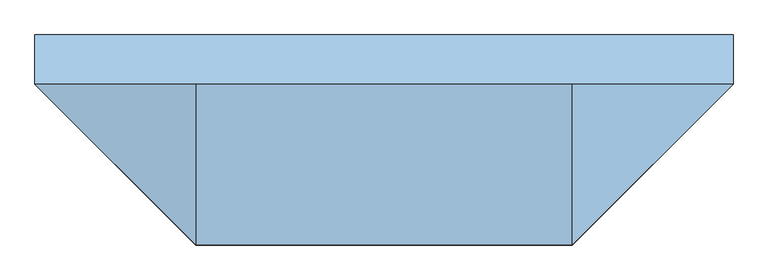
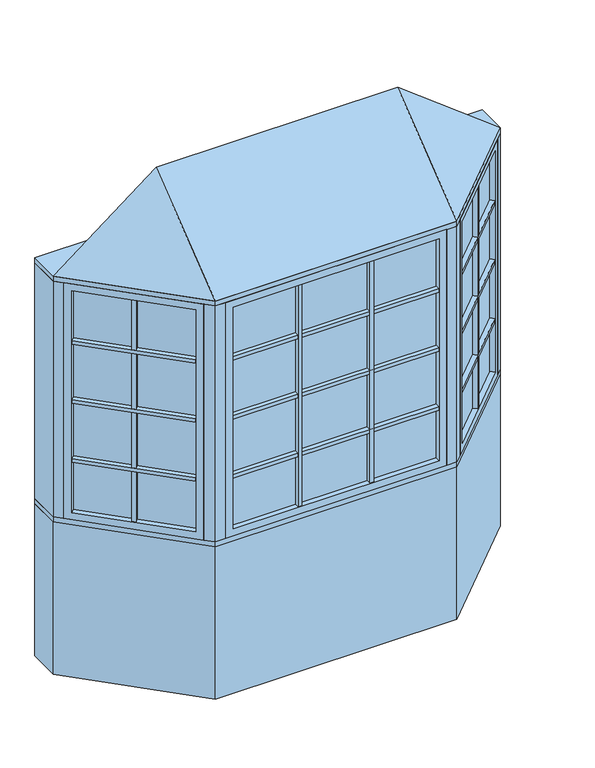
"""IFC4 building model written with IfcOpenShell, lengths in millimetres: window geometry, Pollard_Windows_Tudor Casement Bows and Bays : AML-BAY 45 AFR0612-10-600_GC."""

import ifcopenshell
import ifcopenshell.guid

model = None  # the IFC model being written
_history = None  # IfcOwnerHistory: only IFC2X3 demands one
_inside = {}  # id of a spatial element -> (the spatial element, [elements in it])
_under = {}  # id of a project, library or spatial element -> (it, [spatial elements below it])
_declared = {}  # id of a project -> (the project, [libraries it declares])
_typed = {}  # id of a type object -> (the type object, [elements of that type])
_made_of = {}  # id of a material, layer set ... -> (it, [elements and type objects made of it])


def new_model(schema):
    """Start an empty IFC model of exactly this schema.

    Asked for "IFC4X3", IfcOpenShell would pick the latest addendum, in which some entities
    have other attributes; the version numbers below select the first issue.
    IFC2X3 requires an IfcOwnerHistory on every rooted entity: one is made here for all.
    """
    global model, _history
    if schema == "IFC4X3":
        model = ifcopenshell.file(schema_version=(4, 3, 0, 0))
    else:
        model = ifcopenshell.file(schema=schema)
    _inside.clear()
    _under.clear()
    _declared.clear()
    _typed.clear()
    _made_of.clear()
    _history = None
    if model.schema == "IFC2X3":
        org = make("IfcOrganization", Name="unknown")
        user = make(
            "IfcPersonAndOrganization",
            ThePerson=make("IfcPerson", FamilyName="unknown"),
            TheOrganization=org,
        )
        app = make(
            "IfcApplication",
            ApplicationDeveloper=org,
            Version="unknown",
            ApplicationFullName="unknown",
            ApplicationIdentifier="unknown",
        )
        _history = make(
            "IfcOwnerHistory",
            OwningUser=user,
            OwningApplication=app,
            ChangeAction="ADDED",
            CreationDate=0,
        )
    return model


def make(cls, **values):
    """One entity of the class cls with the attributes given. An attribute that is None is left unset."""
    return model.create_entity(
        cls, **{name: value for name, value in values.items() if value is not None}
    )


def rooted(cls, **values):
    """An entity with a GlobalId (a new one), such as an element, a storey or a relation."""
    return make(cls, GlobalId=ifcopenshell.guid.new(), OwnerHistory=_history, **values)


def si_unit(unit_type, name, prefix=None):
    """IfcSIUnit, for example si_unit("LENGTHUNIT", "METRE", prefix="MILLI")."""
    return make("IfcSIUnit", UnitType=unit_type, Prefix=prefix, Name=name)


def assignment(units):
    """IfcUnitAssignment: the units of a project."""
    return None if units is None else make("IfcUnitAssignment", Units=units)


def point(xyz):
    """IfcCartesianPoint."""
    return None if xyz is None else make("IfcCartesianPoint", Coordinates=xyz)


def direction(xyz):
    """IfcDirection."""
    return None if xyz is None else make("IfcDirection", DirectionRatios=xyz)


def frame(location, z_axis=None, x_axis=None):
    """IfcAxis2Placement3D, a coordinate frame: its origin and axes. An axis left out is left unset."""
    return make(
        "IfcAxis2Placement3D",
        Location=point(location),
        Axis=direction(z_axis),
        RefDirection=direction(x_axis),
    )


def origin():
    """The frame at (0, 0, 0) with its axes left unset."""
    return frame((0.0, 0.0, 0.0))


def origin_with_axes():
    """The frame at (0, 0, 0) with the z axis (0, 0, 1) and the x axis (1, 0, 0) written out."""
    return frame((0.0, 0.0, 0.0), z_axis=(0.0, 0.0, 1.0), x_axis=(1.0, 0.0, 0.0))


def place(relative_to, where):
    """IfcLocalPlacement: puts the frame where relative to a parent placement (None: the world)."""
    return make(
        "IfcLocalPlacement", PlacementRelTo=relative_to, RelativePlacement=where
    )


def context(
    kind, dimensions, precision=None, world=None, true_north=None, identifier=None
):
    """IfcGeometricRepresentationContext, for example the 3D "Model" context."""
    return make(
        "IfcGeometricRepresentationContext",
        ContextIdentifier=identifier,
        ContextType=kind,
        CoordinateSpaceDimension=dimensions,
        Precision=precision,
        WorldCoordinateSystem=world,
        TrueNorth=true_north,
    )


def project(units=None, contexts=None):
    """IfcProject with its units and contexts."""
    return rooted(
        "IfcProject",
        Name="project",
        RepresentationContexts=contexts,
        UnitsInContext=assignment(units),
    )


def spatial(cls, under=None, at=None, **own):
    """A site, building, storey or space (cls), placed at a placement, below another one or the project."""
    s = rooted(cls, ObjectPlacement=at, **own)
    if under is not None:
        _under.setdefault(under.id(), (under, []))[1].append(s)
    return s


def polyline(points):
    """IfcPolyline through the points."""
    return make("IfcPolyline", Points=[point(p) for p in points])


def outline(outer, holes=None, kind="AREA"):
    """IfcArbitraryClosedProfileDef: a profile drawn as a closed curve; with holes, ...WithVoids."""
    if holes is None:
        return make("IfcArbitraryClosedProfileDef", ProfileType=kind, OuterCurve=outer)
    return make(
        "IfcArbitraryProfileDefWithVoids",
        ProfileType=kind,
        OuterCurve=outer,
        InnerCurves=holes,
    )


def extrude(swept, where, along, depth):
    """IfcExtrudedAreaSolid: the profile swept, set in the frame where, extruded along a direction by depth."""
    return make(
        "IfcExtrudedAreaSolid",
        SweptArea=swept,
        Position=where,
        ExtrudedDirection=direction(along),
        Depth=depth,
    )


def faces_of(points, faces, orient=None, outer=None):
    """IfcFace entities. A face is a list of loops; a loop is a list of indices into points, from 0.

    orient and outer hold one flag for each loop. By default every Orientation is true, the
    first loop of a face is its IfcFaceOuterBound and the others are IfcFaceBound.
    """
    made = []
    for i, loops in enumerate(faces):
        bounds = []
        for j, loop in enumerate(loops):
            is_outer = j == 0 if outer is None else outer[i][j]
            bounds.append(
                make(
                    "IfcFaceOuterBound" if is_outer else "IfcFaceBound",
                    Bound=make("IfcPolyLoop", Polygon=[points[k] for k in loop]),
                    Orientation=True if orient is None else orient[i][j],
                )
            )
        made.append(make("IfcFace", Bounds=bounds))
    return made


def faceted_brep(points, faces, orient=None, outer=None, voids=None):
    """IfcFacetedBrep: a solid bounded by flat faces; with voids (closed shells), ...WithVoids."""
    shared = [point(p) for p in points]
    hull = make("IfcClosedShell", CfsFaces=faces_of(shared, faces, orient, outer))
    if voids is None:
        return make("IfcFacetedBrep", Outer=hull)
    return make(
        "IfcFacetedBrepWithVoids",
        Outer=hull,
        Voids=[
            make(cls, CfsFaces=faces_of(shared, fs, o, b)) for cls, fs, o, b in voids
        ],
    )


def shape(context_of_items, identifier, shape_type, items):
    """IfcShapeRepresentation: the items that make up one representation, for example the "Body"."""
    return make(
        "IfcShapeRepresentation",
        ContextOfItems=context_of_items,
        RepresentationIdentifier=identifier,
        RepresentationType=shape_type,
        Items=items,
    )


def source(mapping_origin, context_of_items, identifier, shape_type, items):
    """IfcRepresentationMap: a shape defined once, which mapped items show again and again."""
    return make(
        "IfcRepresentationMap",
        MappingOrigin=mapping_origin,
        MappedRepresentation=shape(context_of_items, identifier, shape_type, items),
    )


def transform(
    local_origin,
    x_axis=None,
    y_axis=None,
    z_axis=None,
    scale=None,
    scale2=None,
    scale3=None,
    uniform=True,
):
    """IfcCartesianTransformationOperator3D, or its non-uniform kind. x_axis, y_axis, z_axis: its Axis1, 2, 3."""
    if uniform:
        return make(
            "IfcCartesianTransformationOperator3D",
            Axis1=direction(x_axis),
            Axis2=direction(y_axis),
            LocalOrigin=point(local_origin),
            Scale=scale,
            Axis3=direction(z_axis),
        )
    return make(
        "IfcCartesianTransformationOperator3DnonUniform",
        Axis1=direction(x_axis),
        Axis2=direction(y_axis),
        LocalOrigin=point(local_origin),
        Scale=scale,
        Axis3=direction(z_axis),
        Scale2=scale2,
        Scale3=scale3,
    )


def mapped(mapping_source, mapping_target):
    """IfcMappedItem: shows the shape of a source again, moved by a transform."""
    return make(
        "IfcMappedItem", MappingSource=mapping_source, MappingTarget=mapping_target
    )


def made_of(thing, what):
    """Note that an element or type object is made of a material, layer set ...; save() writes the relation."""
    if what is not None:
        _made_of.setdefault(what.id(), (what, []))[1].append(thing)
    return thing


def element(
    cls,
    number,
    at=None,
    inside=None,
    cuts=None,
    type_object=None,
    material=None,
    context=None,
    identifier="Body",
    shape_type=None,
    held_by="IfcProductDefinitionShape",
    body=None,
    shapes=None,
    **own,
):
    """One element of the class cls, such as IfcWall. Its Tag is "e" and its number.

    at: its placement. inside: the storey or other place that contains it. cuts: it is an
    opening in that element (IfcRelVoidsElement). A single representation is given by context,
    identifier, shape_type and body (its items); several are given by shapes. held_by: the class
    of the entity that holds the representations. save() writes the other relations.
    """
    e = rooted(cls, Tag="e%d" % number, ObjectPlacement=at, **own)
    if body is not None:
        shapes = [shape(context, identifier, shape_type, body)]
    if shapes is not None:
        e.Representation = make(held_by, Representations=shapes)
    if inside is not None:
        _inside.setdefault(inside.id(), (inside, []))[1].append(e)
    if cuts is not None:
        rooted(
            "IfcRelVoidsElement", RelatingBuildingElement=cuts, RelatedOpeningElement=e
        )
    if type_object is not None:
        _typed.setdefault(type_object.id(), (type_object, []))[1].append(e)
    return made_of(e, material)


def aggregate(whole, parts):
    """IfcRelAggregates: a whole, such as a stair, and the parts it consists of."""
    return rooted("IfcRelAggregates", RelatingObject=whole, RelatedObjects=parts)


def save(model, path):
    """Write the relations noted so far, then the file.

    IfcRelAggregates (storeys below a building ...), IfcRelContainedInSpatialStructure (elements
    in a storey), IfcRelDefinesByType, IfcRelAssociatesMaterial and IfcRelDeclares: one each for
    every whole, place, type object, material and project.
    """
    for whole, parts in _under.values():
        aggregate(whole, parts)
    for where, things in _inside.values():
        rooted(
            "IfcRelContainedInSpatialStructure",
            RelatedElements=things,
            RelatingStructure=where,
        )
    for kind, things in _typed.values():
        rooted("IfcRelDefinesByType", RelatedObjects=things, RelatingType=kind)
    for what, things in _made_of.values():
        rooted("IfcRelAssociatesMaterial", RelatedObjects=things, RelatingMaterial=what)
    for by, libraries in _declared.values():
        rooted("IfcRelDeclares", RelatingContext=by, RelatedDefinitions=libraries)
    model.write(path)


def window_e6824027(model_context):
    return source(origin(), model_context, "Body", "SolidModel", [
        extrude(outline(polyline([(639.5114193, -506.9608753), (623.9550701, -491.4045261), (1001.616171, -113.7434252), (1017.1725202, -129.2997743), (639.5114193, -506.9608753)])), frame((0.0, 0.0, 1390.998), z_axis=(0.0, 0.0, 1.0), x_axis=(1.0, 0.0, 0.0)), (0.0, 0.0, 1.0), 18.0),
        extrude(outline(polyline([(620.3629677, -487.8124236), (604.8066185, -472.2560744), (982.4677194, -94.5949735), (998.0240686, -110.1513227), (620.3629677, -487.8124236)])), frame((0.0, 0.0, 1390.998), z_axis=(0.0, 0.0, 1.0), x_axis=(1.0, 0.0, 0.0)), (0.0, 0.0, 1.0), 18.0),
        extrude(outline(polyline([(639.5114193, -506.9608753), (623.9550701, -491.4045261), (1001.616171, -113.7434252), (1017.1725202, -129.2997743), (639.5114193, -506.9608753)])), frame((0.0, 0.0, 1090.998), z_axis=(0.0, 0.0, 1.0), x_axis=(1.0, 0.0, 0.0)), (0.0, 0.0, 1.0), 18.0),
        extrude(outline(polyline([(620.3629677, -487.8124236), (604.8066185, -472.2560744), (982.4677194, -94.5949735), (998.0240686, -110.1513227), (620.3629677, -487.8124236)])), frame((0.0, 0.0, 1090.998), z_axis=(0.0, 0.0, 1.0), x_axis=(1.0, 0.0, 0.0)), (0.0, 0.0, 1.0), 18.0),
        extrude(outline(polyline([(639.5114193, -506.9608753), (623.9550701, -491.4045261), (1001.616171, -113.7434252), (1017.1725202, -129.2997743), (639.5114193, -506.9608753)])), frame((0.0, 0.0, 1390.998), z_axis=(0.0, 0.0, 1.0), x_axis=(1.0, 0.0, 0.0)), (0.0, 0.0, 1.0), 18.0),
        extrude(outline(polyline([(620.3629677, -487.8124236), (604.8066185, -472.2560744), (982.4677194, -94.5949735), (998.0240686, -110.1513227), (620.3629677, -487.8124236)])), frame((0.0, 0.0, 1390.998), z_axis=(0.0, 0.0, 1.0), x_axis=(1.0, 0.0, 0.0)), (0.0, 0.0, 1.0), 18.0),
        extrude(outline(polyline([(639.5114193, -506.9608753), (623.9550701, -491.4045261), (1001.616171, -113.7434252), (1017.1725202, -129.2997743), (639.5114193, -506.9608753)])), frame((0.0, 0.0, 1390.998), z_axis=(0.0, 0.0, 1.0), x_axis=(1.0, 0.0, 0.0)), (0.0, 0.0, 1.0), 18.0),
        extrude(outline(polyline([(620.3629677, -487.8124236), (604.8066185, -472.2560744), (982.4677194, -94.5949735), (998.0240686, -110.1513227), (620.3629677, -487.8124236)])), frame((0.0, 0.0, 1390.998), z_axis=(0.0, 0.0, 1.0), x_axis=(1.0, 0.0, 0.0)), (0.0, 0.0, 1.0), 18.0),
        extrude(outline(polyline([(639.5114193, -506.9608753), (623.9550701, -491.4045261), (1001.616171, -113.7434252), (1017.1725202, -129.2997743), (639.5114193, -506.9608753)])), frame((0.0, 0.0, 1690.998), z_axis=(0.0, 0.0, 1.0), x_axis=(1.0, 0.0, 0.0)), (0.0, 0.0, 1.0), 18.0),
        extrude(outline(polyline([(620.3629677, -487.8124236), (604.8066185, -472.2560744), (982.4677194, -94.5949735), (998.0240686, -110.1513227), (620.3629677, -487.8124236)])), frame((0.0, 0.0, 1690.998), z_axis=(0.0, 0.0, 1.0), x_axis=(1.0, 0.0, 0.0)), (0.0, 0.0, 1.0), 18.0),
        extrude(outline(polyline([(819.1495816, -296.2100146), (834.7059308, -311.7663638), (821.9780087, -324.4942858), (806.4216595, -308.9379366), (819.1495816, -296.2100146)])), frame((0.0, 0.0, 835.8628), z_axis=(0.0, 0.0, 1.0), x_axis=(1.0, 0.0, 0.0)), (0.0, 0.0, 1.0), 1128.2704),
        extrude(outline(polyline([(815.5574791, -292.6179121), (802.8295571, -305.3458342), (787.2732079, -289.789485), (800.00113, -277.0615629), (815.5574791, -292.6179121)])), frame((0.0, 0.0, 835.8628), z_axis=(0.0, 0.0, 1.0), x_axis=(1.0, 0.0, 0.0)), (0.0, 0.0, 1.0), 1128.2704),
        extrude(outline(polyline([(1010.5964271, -104.763169), (614.974814, -500.3847822), (611.3827115, -496.7926797), (1007.0043247, -101.1710666), (1010.5964271, -104.763169)])), frame((0.0, 0.0, 823.1628), z_axis=(0.0, 0.0, 1.0), x_axis=(1.0, 0.0, 0.0)), (0.0, 0.0, 1.0), 1153.6704),
        faceted_brep([(1001.616171, -113.7434252, 835.8628), (1019.5766833, -131.7039374, 835.8628), (1019.5766833, -131.7039374, 1964.1332), (1001.616171, -113.7434252, 1964.1332), (1007.0043247, -101.1710666, 823.1628), (1010.5964271, -104.763169, 823.1628), (1010.5964271, -104.763169, 1976.8332), (1007.0043247, -101.1710666, 1976.8332), (980.0635563, -92.1908105, 835.8628), (998.0240686, -110.1513227, 835.8628), (998.0240686, -110.1513227, 1964.1332), (980.0635563, -92.1908105, 1964.1332), (1044.9369265, -106.3436941, 799.998), (1005.4237996, -66.8305672, 799.998), (1005.4237996, -66.8305672, 1999.998), (1044.9369265, -106.3436941, 1999.998), (641.9155823, -509.3650383, 1964.1332), (623.9550701, -491.4045261, 1964.1332), (614.974814, -500.3847822, 1976.8332), (611.3827115, -496.7926797, 1976.8332), (620.3629677, -487.8124236, 1964.1332), (602.4024554, -469.8519114, 1964.1332), (577.0422121, -495.2121547, 1999.998), (616.5553391, -534.7252816, 1999.998), (641.9155823, -509.3650383, 835.8628), (623.9550701, -491.4045261, 835.8628), (614.974814, -500.3847822, 823.1628), (611.3827115, -496.7926797, 823.1628), (620.3629677, -487.8124236, 835.8628), (602.4024554, -469.8519114, 835.8628), (577.0422121, -495.2121547, 799.998), (616.5553391, -534.7252816, 799.998)], [[[0, 1, 2, 3]], [[4, 5, 6, 7]], [[8, 9, 10, 11]], [[12, 13, 14, 15]], [[3, 2, 16, 17]], [[7, 6, 18, 19]], [[11, 10, 20, 21]], [[15, 14, 22, 23]], [[17, 16, 24, 25]], [[19, 18, 26, 27]], [[21, 20, 28, 29]], [[23, 22, 30, 31]], [[25, 24, 1, 0]], [[5, 26, 18, 6], [3, 17, 25, 0]], [[27, 26, 5, 4]], [[7, 19, 27, 4], [9, 28, 20, 10]], [[29, 28, 9, 8]], [[13, 30, 22, 14], [11, 21, 29, 8]], [[31, 30, 13, 12]], [[15, 23, 31, 12], [1, 24, 16, 2]]]),
        extrude(outline(polyline([(181.3452, -544.6806207), (181.3452, -566.6806207), (163.3452, -566.6806207), (163.3452, -544.6806207), (181.3452, -544.6806207)])), frame((0.0, 0.0, 835.8628), z_axis=(0.0, 0.0, 1.0), x_axis=(1.0, 0.0, 0.0)), (0.0, 0.0, 1.0), 1128.2704),
        extrude(outline(polyline([(181.3452, -539.6006207), (163.3452, -539.6006207), (163.3452, -517.6006207), (181.3452, -517.6006207), (181.3452, -539.6006207)])), frame((0.0, 0.0, 835.8628), z_axis=(0.0, 0.0, 1.0), x_axis=(1.0, 0.0, 0.0)), (0.0, 0.0, 1.0), 1128.2704),
        extrude(outline(polyline([(-163.3452, -544.6806207), (-163.3452, -566.6806207), (-181.3452, -566.6806207), (-181.3452, -544.6806207), (-163.3452, -544.6806207)])), frame((0.0, 0.0, 835.8628), z_axis=(0.0, 0.0, 1.0), x_axis=(1.0, 0.0, 0.0)), (0.0, 0.0, 1.0), 1128.2704),
        extrude(outline(polyline([(-163.3452, -539.6006207), (-181.3452, -539.6006207), (-181.3452, -517.6006207), (-163.3452, -517.6006207), (-163.3452, -539.6006207)])), frame((0.0, 0.0, 835.8628), z_axis=(0.0, 0.0, 1.0), x_axis=(1.0, 0.0, 0.0)), (0.0, 0.0, 1.0), 1128.2704),
        extrude(outline(polyline([(-495.3352, -566.6806207), (-495.3352, -544.6806207), (495.3352, -544.6806207), (495.3352, -566.6806207), (-495.3352, -566.6806207)])), frame((0.0, 0.0, 1090.998), z_axis=(0.0, 0.0, 1.0), x_axis=(1.0, 0.0, 0.0)), (0.0, 0.0, 1.0), 18.0),
        extrude(outline(polyline([(-495.3352, -539.6006207), (-495.3352, -517.6006207), (495.3352, -517.6006207), (495.3352, -539.6006207), (-495.3352, -539.6006207)])), frame((0.0, 0.0, 1090.998), z_axis=(0.0, 0.0, 1.0), x_axis=(1.0, 0.0, 0.0)), (0.0, 0.0, 1.0), 18.0),
        extrude(outline(polyline([(-495.3352, -566.6806207), (-495.3352, -544.6806207), (495.3352, -544.6806207), (495.3352, -566.6806207), (-495.3352, -566.6806207)])), frame((0.0, 0.0, 1390.998), z_axis=(0.0, 0.0, 1.0), x_axis=(1.0, 0.0, 0.0)), (0.0, 0.0, 1.0), 18.0),
        extrude(outline(polyline([(-495.3352, -539.6006207), (-495.3352, -517.6006207), (495.3352, -517.6006207), (495.3352, -539.6006207), (-495.3352, -539.6006207)])), frame((0.0, 0.0, 1390.998), z_axis=(0.0, 0.0, 1.0), x_axis=(1.0, 0.0, 0.0)), (0.0, 0.0, 1.0), 18.0),
        extrude(outline(polyline([(-495.3352, -566.6806207), (-495.3352, -544.6806207), (495.3352, -544.6806207), (495.3352, -566.6806207), (-495.3352, -566.6806207)])), frame((0.0, 0.0, 1390.998), z_axis=(0.0, 0.0, 1.0), x_axis=(1.0, 0.0, 0.0)), (0.0, 0.0, 1.0), 18.0),
        extrude(outline(polyline([(-495.3352, -539.6006207), (-495.3352, -517.6006207), (495.3352, -517.6006207), (495.3352, -539.6006207), (-495.3352, -539.6006207)])), frame((0.0, 0.0, 1390.998), z_axis=(0.0, 0.0, 1.0), x_axis=(1.0, 0.0, 0.0)), (0.0, 0.0, 1.0), 18.0),
        extrude(outline(polyline([(-495.3352, -566.6806207), (-495.3352, -544.6806207), (495.3352, -544.6806207), (495.3352, -566.6806207), (-495.3352, -566.6806207)])), frame((0.0, 0.0, 1390.998), z_axis=(0.0, 0.0, 1.0), x_axis=(1.0, 0.0, 0.0)), (0.0, 0.0, 1.0), 18.0),
        extrude(outline(polyline([(-495.3352, -539.6006207), (-495.3352, -517.6006207), (495.3352, -517.6006207), (495.3352, -539.6006207), (-495.3352, -539.6006207)])), frame((0.0, 0.0, 1390.998), z_axis=(0.0, 0.0, 1.0), x_axis=(1.0, 0.0, 0.0)), (0.0, 0.0, 1.0), 18.0),
        extrude(outline(polyline([(-1017.1725202, -129.2997743), (-1001.616171, -113.7434252), (-623.9550701, -491.4045261), (-639.5114193, -506.9608753), (-1017.1725202, -129.2997743)])), frame((0.0, 0.0, 1090.998), z_axis=(0.0, 0.0, 1.0), x_axis=(1.0, 0.0, 0.0)), (0.0, 0.0, 1.0), 18.0),
        extrude(outline(polyline([(-998.0240686, -110.1513227), (-982.4677194, -94.5949735), (-604.8066185, -472.2560744), (-620.3629677, -487.8124236), (-998.0240686, -110.1513227)])), frame((0.0, 0.0, 1090.998), z_axis=(0.0, 0.0, 1.0), x_axis=(1.0, 0.0, 0.0)), (0.0, 0.0, 1.0), 18.0),
        extrude(outline(polyline([(-1017.1725202, -129.2997743), (-1001.616171, -113.7434252), (-623.9550701, -491.4045261), (-639.5114193, -506.9608753), (-1017.1725202, -129.2997743)])), frame((0.0, 0.0, 1390.998), z_axis=(0.0, 0.0, 1.0), x_axis=(1.0, 0.0, 0.0)), (0.0, 0.0, 1.0), 18.0),
        extrude(outline(polyline([(-998.0240686, -110.1513227), (-982.4677194, -94.5949735), (-604.8066185, -472.2560744), (-620.3629677, -487.8124236), (-998.0240686, -110.1513227)])), frame((0.0, 0.0, 1390.998), z_axis=(0.0, 0.0, 1.0), x_axis=(1.0, 0.0, 0.0)), (0.0, 0.0, 1.0), 18.0),
        extrude(outline(polyline([(-1017.1725202, -129.2997743), (-1001.616171, -113.7434252), (-623.9550701, -491.4045261), (-639.5114193, -506.9608753), (-1017.1725202, -129.2997743)])), frame((0.0, 0.0, 1390.998), z_axis=(0.0, 0.0, 1.0), x_axis=(1.0, 0.0, 0.0)), (0.0, 0.0, 1.0), 18.0),
        extrude(outline(polyline([(-998.0240686, -110.1513227), (-982.4677194, -94.5949735), (-604.8066185, -472.2560744), (-620.3629677, -487.8124236), (-998.0240686, -110.1513227)])), frame((0.0, 0.0, 1390.998), z_axis=(0.0, 0.0, 1.0), x_axis=(1.0, 0.0, 0.0)), (0.0, 0.0, 1.0), 18.0),
        extrude(outline(polyline([(-1017.1725202, -129.2997743), (-1001.616171, -113.7434252), (-623.9550701, -491.4045261), (-639.5114193, -506.9608753), (-1017.1725202, -129.2997743)])), frame((0.0, 0.0, 1390.998), z_axis=(0.0, 0.0, 1.0), x_axis=(1.0, 0.0, 0.0)), (0.0, 0.0, 1.0), 18.0),
        extrude(outline(polyline([(-998.0240686, -110.1513227), (-982.4677194, -94.5949735), (-604.8066185, -472.2560744), (-620.3629677, -487.8124236), (-998.0240686, -110.1513227)])), frame((0.0, 0.0, 1390.998), z_axis=(0.0, 0.0, 1.0), x_axis=(1.0, 0.0, 0.0)), (0.0, 0.0, 1.0), 18.0),
        extrude(outline(polyline([(-1017.1725202, -129.2997743), (-1001.616171, -113.7434252), (-623.9550701, -491.4045261), (-639.5114193, -506.9608753), (-1017.1725202, -129.2997743)])), frame((0.0, 0.0, 1690.998), z_axis=(0.0, 0.0, 1.0), x_axis=(1.0, 0.0, 0.0)), (0.0, 0.0, 1.0), 18.0),
        extrude(outline(polyline([(-998.0240686, -110.1513227), (-982.4677194, -94.5949735), (-604.8066185, -472.2560744), (-620.3629677, -487.8124236), (-998.0240686, -110.1513227)])), frame((0.0, 0.0, 1690.998), z_axis=(0.0, 0.0, 1.0), x_axis=(1.0, 0.0, 0.0)), (0.0, 0.0, 1.0), 18.0),
        extrude(outline(polyline([(-495.3352, -566.6806207), (-495.3352, -544.6806207), (495.3352, -544.6806207), (495.3352, -566.6806207), (-495.3352, -566.6806207)])), frame((0.0, 0.0, 1690.998), z_axis=(0.0, 0.0, 1.0), x_axis=(1.0, 0.0, 0.0)), (0.0, 0.0, 1.0), 18.0),
        extrude(outline(polyline([(-495.3352, -539.6006207), (-495.3352, -517.6006207), (495.3352, -517.6006207), (495.3352, -539.6006207), (-495.3352, -539.6006207)])), frame((0.0, 0.0, 1690.998), z_axis=(0.0, 0.0, 1.0), x_axis=(1.0, 0.0, 0.0)), (0.0, 0.0, 1.0), 18.0),
        extrude(outline(polyline([(-806.4216595, -308.9379366), (-821.9780087, -324.4942858), (-834.7059308, -311.7663638), (-819.1495816, -296.2100146), (-806.4216595, -308.9379366)])), frame((0.0, 0.0, 835.8628), z_axis=(0.0, 0.0, 1.0), x_axis=(1.0, 0.0, 0.0)), (0.0, 0.0, 1.0), 1128.2704),
        extrude(outline(polyline([(-802.8295571, -305.3458342), (-815.5574791, -292.6179121), (-800.00113, -277.0615629), (-787.2732079, -289.789485), (-802.8295571, -305.3458342)])), frame((0.0, 0.0, 835.8628), z_axis=(0.0, 0.0, 1.0), x_axis=(1.0, 0.0, 0.0)), (0.0, 0.0, 1.0), 1128.2704),
        extrude(outline(polyline([(-614.974814, -500.3847822), (-1010.5964271, -104.763169), (-1007.0043247, -101.1710666), (-611.3827115, -496.7926797), (-614.974814, -500.3847822)])), frame((0.0, 0.0, 823.1628), z_axis=(0.0, 0.0, 1.0), x_axis=(1.0, 0.0, 0.0)), (0.0, 0.0, 1.0), 1153.6704),
        faceted_brep([(-620.3629677, -487.8124236, 1964.1332), (-602.4024554, -469.8519114, 1964.1332), (-602.4024554, -469.8519114, 835.8628), (-620.3629677, -487.8124236, 835.8628), (-614.974814, -500.3847822, 1976.8332), (-611.3827115, -496.7926797, 1976.8332), (-611.3827115, -496.7926797, 823.1628), (-614.974814, -500.3847822, 823.1628), (-641.9155823, -509.3650383, 1964.1332), (-623.9550701, -491.4045261, 1964.1332), (-623.9550701, -491.4045261, 835.8628), (-641.9155823, -509.3650383, 835.8628), (-577.0422121, -495.2121547, 1999.998), (-616.5553391, -534.7252816, 1999.998), (-616.5553391, -534.7252816, 799.998), (-577.0422121, -495.2121547, 799.998), (-980.0635563, -92.1908105, 835.8628), (-998.0240686, -110.1513227, 835.8628), (-1007.0043247, -101.1710666, 823.1628), (-1010.5964271, -104.763169, 823.1628), (-1001.616171, -113.7434252, 835.8628), (-1019.5766833, -131.7039374, 835.8628), (-1044.9369265, -106.3436941, 799.998), (-1005.4237996, -66.8305672, 799.998), (-980.0635563, -92.1908105, 1964.1332), (-998.0240686, -110.1513227, 1964.1332), (-1007.0043247, -101.1710666, 1976.8332), (-1010.5964271, -104.763169, 1976.8332), (-1001.616171, -113.7434252, 1964.1332), (-1019.5766833, -131.7039374, 1964.1332), (-1044.9369265, -106.3436941, 1999.998), (-1005.4237996, -66.8305672, 1999.998)], [[[0, 1, 2, 3]], [[4, 5, 6, 7]], [[8, 9, 10, 11]], [[12, 13, 14, 15]], [[3, 2, 16, 17]], [[7, 6, 18, 19]], [[11, 10, 20, 21]], [[15, 14, 22, 23]], [[17, 16, 24, 25]], [[19, 18, 26, 27]], [[21, 20, 28, 29]], [[23, 22, 30, 31]], [[15, 23, 31, 12], [1, 24, 16, 2]], [[25, 24, 1, 0]], [[5, 26, 18, 6], [3, 17, 25, 0]], [[27, 26, 5, 4]], [[7, 19, 27, 4], [9, 28, 20, 10]], [[29, 28, 9, 8]], [[13, 30, 22, 14], [11, 21, 29, 8]], [[31, 30, 13, 12]]]),
        extrude(outline(polyline([(508.0352, -544.6806207), (-508.0352, -544.6806207), (-508.0352, -539.6006207), (508.0352, -539.6006207), (508.0352, -544.6806207)])), frame((0.0, 0.0, 823.1628), z_axis=(0.0, 0.0, 1.0), x_axis=(1.0, 0.0, 0.0)), (0.0, 0.0, 1.0), 1153.6704),
        faceted_brep([(495.3352, -544.6806207, 835.8628), (495.3352, -570.0806207, 835.8628), (495.3352, -570.0806207, 1964.1332), (495.3352, -544.6806207, 1964.1332), (508.0352, -539.6006207, 823.1628), (508.0352, -544.6806207, 823.1628), (508.0352, -544.6806207, 1976.8332), (508.0352, -539.6006207, 1976.8332), (495.3352, -514.2006207, 835.8628), (495.3352, -539.6006207, 835.8628), (495.3352, -539.6006207, 1964.1332), (495.3352, -514.2006207, 1964.1332), (531.2, -570.0806207, 799.998), (531.2, -514.2006207, 799.998), (531.2, -514.2006207, 1999.998), (531.2, -570.0806207, 1999.998), (-495.3352, -570.0806207, 1964.1332), (-495.3352, -544.6806207, 1964.1332), (-508.0352, -544.6806207, 1976.8332), (-508.0352, -539.6006207, 1976.8332), (-495.3352, -539.6006207, 1964.1332), (-495.3352, -514.2006207, 1964.1332), (-531.2, -514.2006207, 1999.998), (-531.2, -570.0806207, 1999.998), (-495.3352, -570.0806207, 835.8628), (-495.3352, -544.6806207, 835.8628), (-508.0352, -544.6806207, 823.1628), (-508.0352, -539.6006207, 823.1628), (-495.3352, -539.6006207, 835.8628), (-495.3352, -514.2006207, 835.8628), (-531.2, -514.2006207, 799.998), (-531.2, -570.0806207, 799.998)], [[[0, 1, 2, 3]], [[4, 5, 6, 7]], [[8, 9, 10, 11]], [[12, 13, 14, 15]], [[3, 2, 16, 17]], [[7, 6, 18, 19]], [[11, 10, 20, 21]], [[15, 14, 22, 23]], [[17, 16, 24, 25]], [[19, 18, 26, 27]], [[21, 20, 28, 29]], [[23, 22, 30, 31]], [[15, 23, 31, 12], [1, 24, 16, 2]], [[25, 24, 1, 0]], [[5, 26, 18, 6], [3, 17, 25, 0]], [[27, 26, 5, 4]], [[7, 19, 27, 4], [9, 28, 20, 10]], [[29, 28, 9, 8]], [[13, 30, 22, 14], [11, 21, 29, 8]], [[31, 30, 13, 12]]]),
        faceted_brep([(1076.5, -74.7806207, 2025.398), (581.2, -570.0806207, 2025.398), (-581.2, -570.0806207, 2025.398), (-1076.5, -74.7806207, 2025.398), (-581.2, -74.7806207, 2406.398), (581.2, -74.7806207, 2406.398)], [[[0, 1, 2, 3]], [[3, 2, 4]], [[2, 1, 5, 4]], [[1, 0, 5]], [[0, 3, 4, 5]]]),
        extrude(outline(polyline([(-1076.5, 77.6193793), (1076.5, 77.6193793), (1076.5, -74.7806207), (581.2, -570.0806207), (-581.2, -570.0806207), (-1076.5, -74.7806207), (-1076.5, 77.6193793)])), frame((0.0, 0.0, 1999.998), z_axis=(0.0, 0.0, 1.0), x_axis=(1.0, 0.0, 0.0)), (0.0, 0.0, 1.0), 25.4),
        extrude(outline(polyline([(-1076.5, -74.7806207), (-1076.5, 77.6193793), (-1013.3738531, 77.6193793), (-1013.3738531, -74.7806207), (-1044.9369265, -106.3436941), (-1076.5, -74.7806207)])), frame((0.0, 0.0, 799.998), z_axis=(0.0, 0.0, 1.0), x_axis=(1.0, 0.0, 0.0)), (0.0, 0.0, 1.0), 1200.0),
        extrude(outline(polyline([(1076.5, 77.6193793), (1076.5, -74.7806207), (1044.9369265, -106.3436941), (1013.3738531, -74.7806207), (1013.3738531, 77.6193793), (1076.5, 77.6193793)])), frame((0.0, 0.0, 799.998), z_axis=(0.0, 0.0, 1.0), x_axis=(1.0, 0.0, 0.0)), (0.0, 0.0, 1.0), 1200.0),
        extrude(outline(polyline([(581.2, -570.0806207), (531.2, -570.0806207), (531.2, -520.0806207), (560.4893219, -520.0806207), (581.2, -499.3699425), (616.5553391, -534.7252816), (581.2, -570.0806207)])), frame((0.0, 0.0, 799.998), z_axis=(0.0, 0.0, 1.0), x_axis=(1.0, 0.0, 0.0)), (0.0, 0.0, 1.0), 1200.0),
        extrude(outline(polyline([(-581.2, -570.0806207), (-616.5553391, -534.7252816), (-581.2, -499.3699425), (-560.4893219, -520.0806207), (-531.2, -520.0806207), (-531.2, -570.0806207), (-581.2, -570.0806207)])), frame((0.0, 0.0, 799.998), z_axis=(0.0, 0.0, 1.0), x_axis=(1.0, 0.0, 0.0)), (0.0, 0.0, 1.0), 1200.0),
        extrude(outline(polyline([(-581.2, -570.0806207), (-1076.5, -74.7806207), (-1076.5, 77.6193793), (-1013.3738531, 77.6193793), (-518.0738531, -417.6806207), (518.0738531, -417.6806207), (1013.3738531, 77.6193793), (1076.5, 77.6193793), (1076.5, -74.7806207), (581.2, -570.0806207), (-581.2, -570.0806207)])), frame((0.0, 0.0, 774.598), z_axis=(0.0, 0.0, 1.0), x_axis=(1.0, 0.0, 0.0)), (0.0, 0.0, 1.0), 25.4),
        extrude(outline(polyline([(-1076.5, -74.7806207), (-1076.5, 77.6193793), (-1013.3738531, 77.6193793), (-518.0738531, -417.6806207), (518.0738531, -417.6806207), (1013.3738531, 77.6193793), (1076.5, 77.6193793), (1076.5, -74.7806207), (581.2, -570.0806207), (-581.2, -570.0806207), (-1076.5, -74.7806207)])), origin_with_axes(), (0.0, 0.0, 1.0), 774.598),
    ])


if __name__ == "__main__":
    model = new_model("IFC4")
    model_context = context("Model", 3, world=origin())
    ifc_project = project(units=[si_unit("LENGTHUNIT", "METRE", prefix="MILLI")], contexts=[model_context])
    site = spatial("IfcSite", under=ifc_project)
    building = spatial("IfcBuilding", under=site)
    placement = place(None, origin())
    window_shape = window_e6824027(model_context)
    element("IfcWindow", 1, ObjectType="Pollard_Windows_Tudor Casement Bows and Bays : AML-BAY 45 AFR0612-10-600_GC", at=placement, inside=building, context=model_context, shape_type="MappedRepresentation", body=[
        mapped(window_shape, transform((0.0, 0.0, 0.0), x_axis=(1.0, 0.0, 0.0), y_axis=(0.0, 1.0, 0.0), z_axis=(0.0, 0.0, 1.0))),
    ])
    save(model, "model.ifc")
